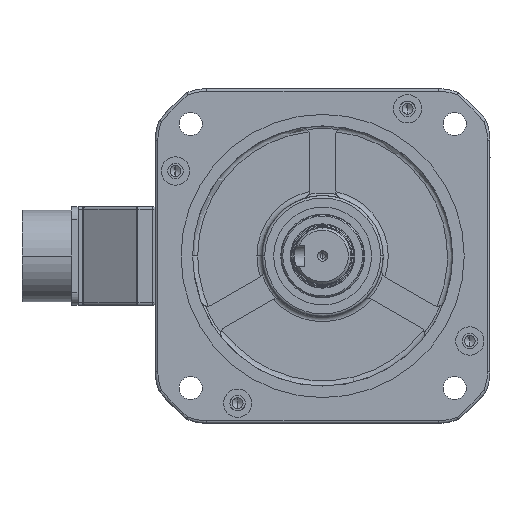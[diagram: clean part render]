
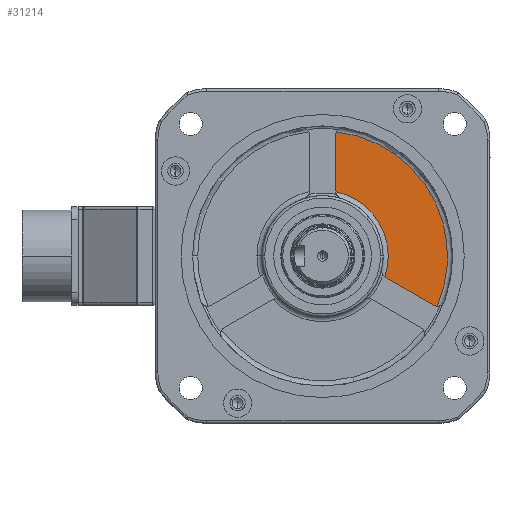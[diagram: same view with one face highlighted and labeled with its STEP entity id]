
A CAD part, left-side view. The second image highlights one B-rep face of the part: STEP entity #31214.
In plain terms, the highlighted planar face has unit normal (-1, 0, 0) as drawn and (0, 0, 1) by its records, which use the part's own axes.
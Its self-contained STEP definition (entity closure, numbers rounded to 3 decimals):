
#944 = ORIENTED_EDGE ( 'NONE', *, *, #42935, .T. ) ;
#1300 = EDGE_CURVE ( 'NONE', #61356, #50350, #42583, .T. ) ;
#3247 = CIRCLE ( 'NONE', #25019, 48.5 ) ;
#5357 = DIRECTION ( 'NONE',  ( 0., 0., 1. ) ) ;
#6150 = DIRECTION ( 'NONE',  ( 0., 0., 1. ) ) ;
#8943 = EDGE_LOOP ( 'NONE', ( #25227, #944, #20983, #83041, #73406, #13564, #51146, #21085 ) ) ;
#9994 = CARTESIAN_POINT ( 'NONE',  ( -5., -46.821, 0.5 ) ) ;
#12164 = DIRECTION ( 'NONE',  ( 1., 0., 0. ) ) ;
#12296 = EDGE_CURVE ( 'NONE', #23320, #15105, #3247, .T. ) ;
#13564 = ORIENTED_EDGE ( 'NONE', *, *, #12296, .T. ) ;
#14323 = EDGE_CURVE ( 'NONE', #61356, #15477, #48884, .T. ) ;
#15105 = VERTEX_POINT ( 'NONE', #49001 ) ;
#15477 = VERTEX_POINT ( 'NONE', #9994 ) ;
#18185 = CARTESIAN_POINT ( 'NONE',  ( 0., 0., 0.5 ) ) ;
#18781 = CARTESIAN_POINT ( 'NONE',  ( -24.379, 8.302, 0.5 ) ) ;
#20983 = ORIENTED_EDGE ( 'NONE', *, *, #44242, .T. ) ;
#21053 = FACE_OUTER_BOUND ( 'NONE', #8943, .T. ) ;
#21085 = ORIENTED_EDGE ( 'NONE', *, *, #14323, .F. ) ;
#23320 = VERTEX_POINT ( 'NONE', #36163 ) ;
#23577 = VECTOR ( 'NONE', #54869, 1000. ) ;
#24223 = EDGE_CURVE ( 'NONE', #15105, #15477, #39265, .T. ) ;
#25019 = AXIS2_PLACEMENT_3D ( 'NONE', #18185, #32284, #44674 ) ;
#25227 = ORIENTED_EDGE ( 'NONE', *, *, #1300, .T. ) ;
#26571 = AXIS2_PLACEMENT_3D ( 'NONE', #33983, #65603, #79657 ) ;
#27449 = PLANE ( 'NONE',  #48414 ) ;
#28505 = AXIS2_PLACEMENT_3D ( 'NONE', #66621, #33729, #59775 ) ;
#31214 = ADVANCED_FACE ( 'NONE', ( #21053 ), #27449, .T. ) ;
#32284 = DIRECTION ( 'NONE',  ( 0., 0., 1. ) ) ;
#32882 = CARTESIAN_POINT ( 'NONE',  ( -25.879, 5.704, 0.5 ) ) ;
#33729 = DIRECTION ( 'NONE',  ( 0., 0., -1. ) ) ;
#33983 = CARTESIAN_POINT ( 'NONE',  ( -44.549, 16.483, 0.5 ) ) ;
#33995 = CIRCLE ( 'NONE', #28505, 25.5 ) ;
#35891 = EDGE_CURVE ( 'NONE', #70564, #53600, #70557, .T. ) ;
#36163 = CARTESIAN_POINT ( 'NONE',  ( -44.416, 19.48, 0.5 ) ) ;
#37121 = AXIS2_PLACEMENT_3D ( 'NONE', #37815, #5357, #12164 ) ;
#37815 = CARTESIAN_POINT ( 'NONE',  ( -8., -25.264, 0.5 ) ) ;
#39265 = CIRCLE ( 'NONE', #70652, 3. ) ;
#39612 = CIRCLE ( 'NONE', #70998, 3. ) ;
#42583 = CIRCLE ( 'NONE', #37121, 3. ) ;
#42935 = EDGE_CURVE ( 'NONE', #50350, #47462, #33995, .T. ) ;
#44242 = EDGE_CURVE ( 'NONE', #47462, #70564, #39612, .T. ) ;
#44565 = CARTESIAN_POINT ( 'NONE',  ( -5.011, -25.003, 0.5 ) ) ;
#44674 = DIRECTION ( 'NONE',  ( 1., 0., 0. ) ) ;
#46554 = DIRECTION ( 'NONE',  ( 1., 0., 0. ) ) ;
#47462 = VERTEX_POINT ( 'NONE', #71107 ) ;
#48414 = AXIS2_PLACEMENT_3D ( 'NONE', #84303, #6150, #53104 ) ;
#48884 = LINE ( 'NONE', #74908, #23577 ) ;
#49001 = CARTESIAN_POINT ( 'NONE',  ( -5.338, -48.205, 0.5 ) ) ;
#50087 = DIRECTION ( 'NONE',  ( -0.866, 0.5, 0. ) ) ;
#50350 = VERTEX_POINT ( 'NONE', #44565 ) ;
#51146 = ORIENTED_EDGE ( 'NONE', *, *, #24223, .T. ) ;
#51789 = VECTOR ( 'NONE', #50087, 1000. ) ;
#53104 = DIRECTION ( 'NONE',  ( 1., 0., 0. ) ) ;
#53393 = CARTESIAN_POINT ( 'NONE',  ( -5., -25.264, 0.5 ) ) ;
#53600 = VERTEX_POINT ( 'NONE', #55519 ) ;
#54869 = DIRECTION ( 'NONE',  ( 0., -1., 0. ) ) ;
#55519 = CARTESIAN_POINT ( 'NONE',  ( -43.049, 19.081, 0.5 ) ) ;
#56972 = DIRECTION ( 'NONE',  ( 1., 0., 0. ) ) ;
#59775 = DIRECTION ( 'NONE',  ( 1., 0., 0. ) ) ;
#60631 = DIRECTION ( 'NONE',  ( 0., 0., 1. ) ) ;
#61356 = VERTEX_POINT ( 'NONE', #53393 ) ;
#63409 = CIRCLE ( 'NONE', #26571, 3. ) ;
#63802 = CARTESIAN_POINT ( 'NONE',  ( -8., -46.821, 0.5 ) ) ;
#65603 = DIRECTION ( 'NONE',  ( 0., 0., 1. ) ) ;
#66621 = CARTESIAN_POINT ( 'NONE',  ( 0., 0., 0.5 ) ) ;
#69362 = DIRECTION ( 'NONE',  ( 0., 0., 1. ) ) ;
#70557 = LINE ( 'NONE', #77359, #51789 ) ;
#70564 = VERTEX_POINT ( 'NONE', #18781 ) ;
#70652 = AXIS2_PLACEMENT_3D ( 'NONE', #63802, #69362, #56972 ) ;
#70998 = AXIS2_PLACEMENT_3D ( 'NONE', #32882, #60631, #46554 ) ;
#71107 = CARTESIAN_POINT ( 'NONE',  ( -24.159, 8.161, 0.5 ) ) ;
#73406 = ORIENTED_EDGE ( 'NONE', *, *, #78964, .T. ) ;
#74908 = CARTESIAN_POINT ( 'NONE',  ( -5., 0., 0.5 ) ) ;
#77359 = CARTESIAN_POINT ( 'NONE',  ( -2.5, -4.33, 0.5 ) ) ;
#78964 = EDGE_CURVE ( 'NONE', #53600, #23320, #63409, .T. ) ;
#79657 = DIRECTION ( 'NONE',  ( 1., 0., 0. ) ) ;
#83041 = ORIENTED_EDGE ( 'NONE', *, *, #35891, .T. ) ;
#84303 = CARTESIAN_POINT ( 'NONE',  ( 0., 0., 0.5 ) ) ;
